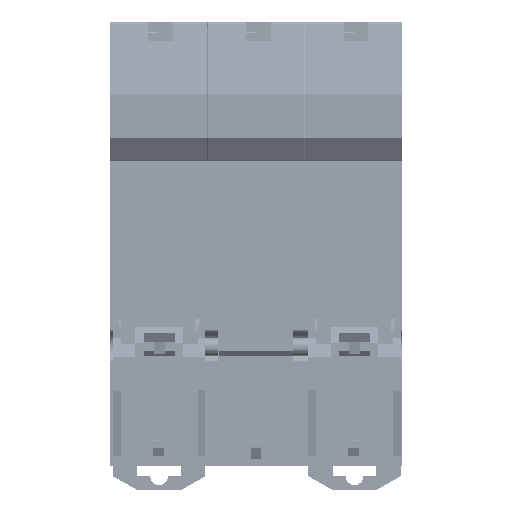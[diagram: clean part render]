
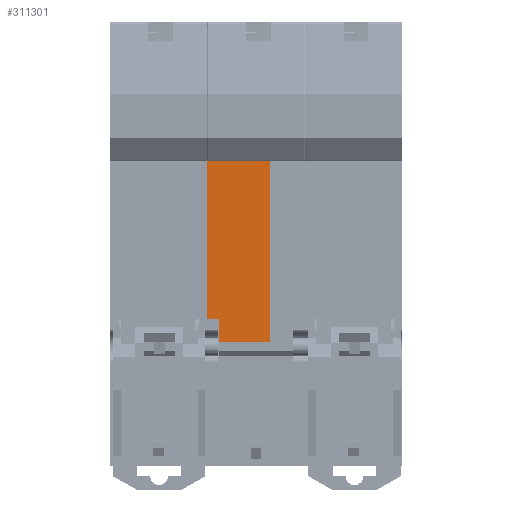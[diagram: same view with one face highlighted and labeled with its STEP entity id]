
A CAD part, left-side view. The second image highlights one B-rep face of the part: STEP entity #311301.
In plain terms, the highlighted planar face has unit normal (-1, 0, 0).
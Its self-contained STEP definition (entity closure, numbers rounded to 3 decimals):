
#4726 = DIRECTION ( 'NONE',  ( 0., 0., 1. ) ) ;
#5445 = VERTEX_POINT ( 'NONE', #626500 ) ;
#21099 = CARTESIAN_POINT ( 'NONE',  ( -2.5, 33.45, 58.1 ) ) ;
#22358 = CARTESIAN_POINT ( 'NONE',  ( -2.5, 35.6, 58.1 ) ) ;
#45756 = DIRECTION ( 'NONE',  ( 1., 0., 0. ) ) ;
#48978 = CARTESIAN_POINT ( 'NONE',  ( -2.5, 35.6, 58.1 ) ) ;
#58530 = CARTESIAN_POINT ( 'NONE',  ( -2.5, 33.45, 26.9 ) ) ;
#71317 = LINE ( 'NONE', #22358, #452703 ) ;
#81871 = FACE_OUTER_BOUND ( 'NONE', #550691, .T. ) ;
#86006 = ORIENTED_EDGE ( 'NONE', *, *, #270810, .T. ) ;
#104286 = VECTOR ( 'NONE', #4726, 1000. ) ;
#118797 = LINE ( 'NONE', #21099, #341114 ) ;
#122989 = VERTEX_POINT ( 'NONE', #273016 ) ;
#150669 = ORIENTED_EDGE ( 'NONE', *, *, #257013, .T. ) ;
#182316 = VERTEX_POINT ( 'NONE', #518511 ) ;
#200656 = ORIENTED_EDGE ( 'NONE', *, *, #457108, .T. ) ;
#201683 = DIRECTION ( 'NONE',  ( 0., 0., 1. ) ) ;
#220353 = CARTESIAN_POINT ( 'NONE',  ( -2.5, 33.45, 22.6 ) ) ;
#222760 = DIRECTION ( 'NONE',  ( 0., 1., 0. ) ) ;
#257013 = EDGE_CURVE ( 'NONE', #182316, #122989, #577186, .T. ) ;
#270810 = EDGE_CURVE ( 'NONE', #273458, #312930, #311037, .T. ) ;
#273016 = CARTESIAN_POINT ( 'NONE',  ( -2.5, 35.6, 58.1 ) ) ;
#273458 = VERTEX_POINT ( 'NONE', #220353 ) ;
#294156 = DIRECTION ( 'NONE',  ( 0., -1., 0. ) ) ;
#295924 = EDGE_CURVE ( 'NONE', #5445, #565215, #437362, .T. ) ;
#311037 = LINE ( 'NONE', #518788, #585843 ) ;
#311301 = ADVANCED_FACE ( 'NONE', ( #81871 ), #426633, .F. ) ;
#312930 = VERTEX_POINT ( 'NONE', #512332 ) ;
#323952 = AXIS2_PLACEMENT_3D ( 'NONE', #48978, #45756, #201683 ) ;
#326937 = DIRECTION ( 'NONE',  ( 0., 0., -1. ) ) ;
#328403 = ORIENTED_EDGE ( 'NONE', *, *, #295924, .T. ) ;
#341114 = VECTOR ( 'NONE', #326937, 1000. ) ;
#380185 = DIRECTION ( 'NONE',  ( 0., 0., -1. ) ) ;
#385368 = CARTESIAN_POINT ( 'NONE',  ( -2.5, 56.7, 58.1 ) ) ;
#395279 = CARTESIAN_POINT ( 'NONE',  ( -2.5, 24.1, 58.1 ) ) ;
#397502 = EDGE_CURVE ( 'NONE', #312930, #182316, #642185, .T. ) ;
#426633 = PLANE ( 'NONE',  #323952 ) ;
#437362 = LINE ( 'NONE', #589990, #603283 ) ;
#452703 = VECTOR ( 'NONE', #380185, 1000. ) ;
#457108 = EDGE_CURVE ( 'NONE', #122989, #5445, #71317, .T. ) ;
#509180 = DIRECTION ( 'NONE',  ( 0., -1., 0. ) ) ;
#512332 = CARTESIAN_POINT ( 'NONE',  ( -2.5, 24.1, 22.6 ) ) ;
#518511 = CARTESIAN_POINT ( 'NONE',  ( -2.5, 24.1, 58.1 ) ) ;
#518788 = CARTESIAN_POINT ( 'NONE',  ( -2.5, 35.6, 22.6 ) ) ;
#532231 = EDGE_CURVE ( 'NONE', #565215, #273458, #118797, .T. ) ;
#533412 = ORIENTED_EDGE ( 'NONE', *, *, #532231, .T. ) ;
#550691 = EDGE_LOOP ( 'NONE', ( #328403, #533412, #86006, #591807, #150669, #200656 ) ) ;
#565215 = VERTEX_POINT ( 'NONE', #58530 ) ;
#577186 = LINE ( 'NONE', #385368, #629408 ) ;
#585843 = VECTOR ( 'NONE', #509180, 1000. ) ;
#589990 = CARTESIAN_POINT ( 'NONE',  ( -2.5, 35.6, 26.9 ) ) ;
#591807 = ORIENTED_EDGE ( 'NONE', *, *, #397502, .T. ) ;
#603283 = VECTOR ( 'NONE', #294156, 1000. ) ;
#626500 = CARTESIAN_POINT ( 'NONE',  ( -2.5, 35.6, 26.9 ) ) ;
#629408 = VECTOR ( 'NONE', #222760, 1000. ) ;
#642185 = LINE ( 'NONE', #395279, #104286 ) ;
